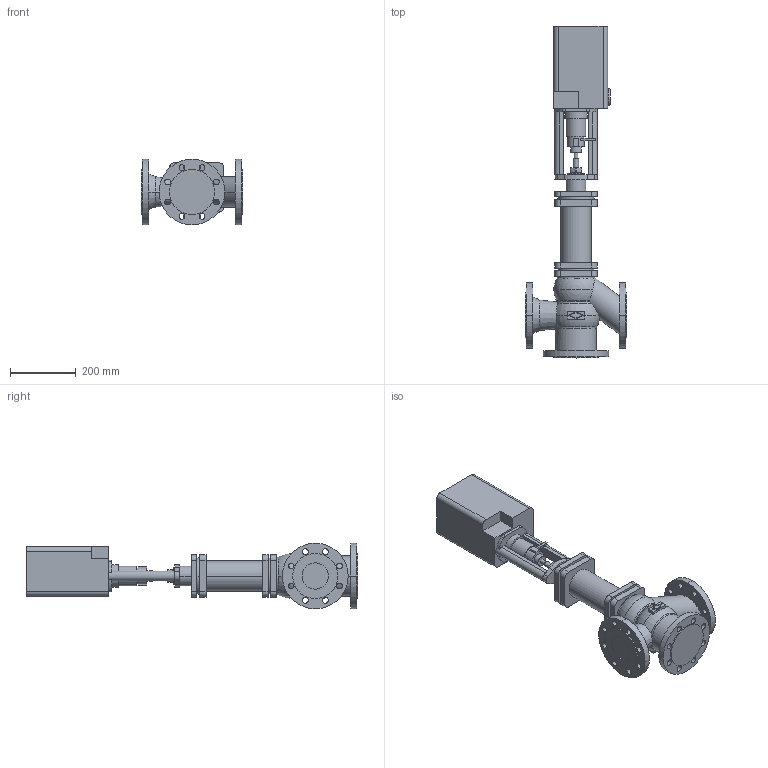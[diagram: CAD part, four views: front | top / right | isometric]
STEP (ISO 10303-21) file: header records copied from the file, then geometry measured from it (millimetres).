
FILE_DESCRIPTION(('OneSpaceDesigner STEP Export'),'2;1');
FILE_NAME('c000000421.stp','2006-09-19T 9:53:46',(''),(''),'OneSpace Designer STEP processor for AP214 (Solid Model)','OneSpace Designer 13.20A 18-Aug-2005 (C) CoCreate Software GmbH','');
FILE_SCHEMA(('AUTOMOTIVE_DESIGN { 1 0 10303 214 1 1 1 1 }'));
Length unit declared in the file: millimetre
Products named in the file (2): 1; 2
Bounding box: 310 x 1011.7 x 200 mm (x, y, z)
Volume: 15389110.6 mm3; surface area: 799707.1 mm2
Topology: 2 solids, 2 shells, 270 faces, 703 edges, 463 vertices
Faces by surface type: cylinder 136, plane 114, torus 12, sphere 4, cone 4
Entity records: 7823 total; most frequent: CARTESIAN_POINT 1520, ORIENTED_EDGE 1398, DIRECTION 1181, EDGE_CURVE 699, VERTEX_POINT 463, AXIS2_PLACEMENT_3D 417, EDGE_LOOP 348, VECTOR 347
